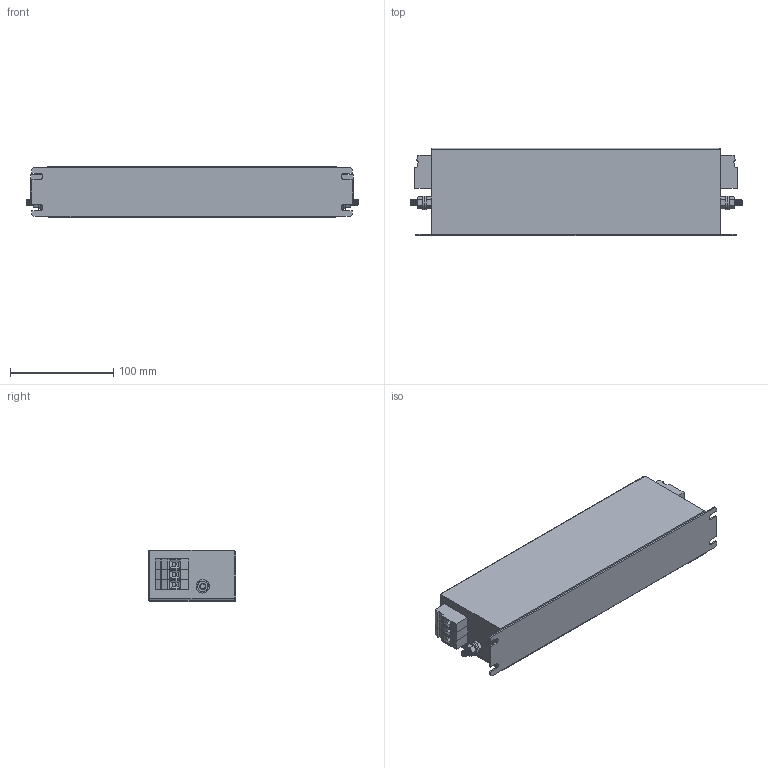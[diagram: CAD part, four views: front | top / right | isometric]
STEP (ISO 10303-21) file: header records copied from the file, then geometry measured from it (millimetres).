
FILE_DESCRIPTION (( 'STEP AP203' ), '1' );
FILE_NAME ('NF-K-42.STEP', '2013-08-01T09:42:23', ( 'Owner' ), ( 'EPA GMBH' ), 'SwSTEP 2.0', 'SolidWorks 2007', '' );
FILE_SCHEMA (( 'CONFIG_CONTROL_DESIGN' ));
Length unit declared in the file: millimetre
Products named in the file (8): M6x16 Earth post; Hex Screw_AM_B18.6.7M - M6 x 1.0 x 16 Plain HHMS --16S; NF-K-42; NK-K-42; VDFK6x3; VDFK-6; Flat Washer Narrow_AM_B18.22M - Plain washer, 6 mm, narrow; Hex Nut Style 1_AM_B18.2.4.1M - Hex nut, Style 1,  M6 x 1 --D-N
Assembly tree (12 placements, depth 3):
  NF-K-42
    VDFK6x3  x2
      VDFK-6
    NK-K-42
    M6x16 Earth post  x2
      Flat Washer Narrow_AM_B18.22M - Plain washer, 6 mm, narrow
      Hex Nut Style 1_AM_B18.2.4.1M - Hex nut, Style 1,  M6 x 1 --D-N
      Hex Screw_AM_B18.6.7M - M6 x 1.0 x 16 Plain HHMS --16S
Bounding box: 321.4 x 85 x 50 mm (x, y, z)
Volume: 1169028.5 mm3; surface area: 131129.2 mm2
Topology: 15 solids, 15 shells, 687 faces, 1699 edges, 1066 vertices
Faces by surface type: plane 354, cone 168, cylinder 163, sphere 2
Entity records: 8810 total; most frequent: CARTESIAN_POINT 1524, DIRECTION 1406, ORIENTED_EDGE 1288, EDGE_CURVE 644, AXIS2_PLACEMENT_3D 532, VERTEX_POINT 402, VECTOR 342, LINE 342
